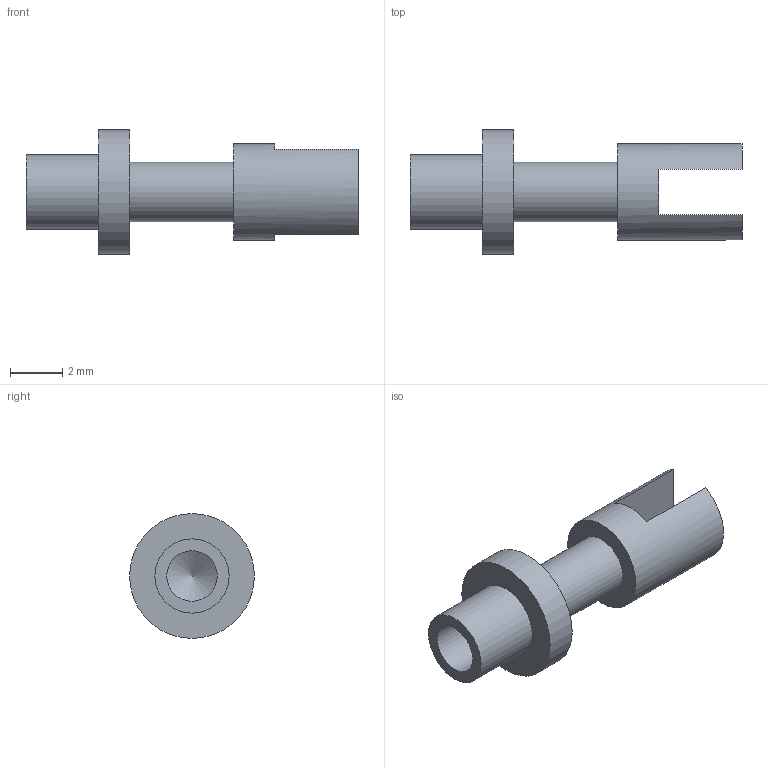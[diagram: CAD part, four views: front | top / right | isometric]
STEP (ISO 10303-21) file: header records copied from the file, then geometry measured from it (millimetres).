
FILE_DESCRIPTION(/* description */ (''),/* implementation_level */ '2;1');
FILE_NAME(/* name */ 'Z:\STEP folder\140-1025-02.ipt.stp',/* time_stamp */ '2016-12-07T10:38:37+00:00',/* author */ ('Paul Karlsons'),/* organization */ (''),/* preprocessor_version */ 'ST-DEVELOPER v15.2',/* originating_system */ 'Autodesk Inventor 2014',/* authorisation */ '');
FILE_SCHEMA (('AUTOMOTIVE_DESIGN { 1 0 10303 214 3 1 1 }'));
Length unit declared in the file: millimetre
Products named in the file (1): 140-1025-02
Bounding box: 12.7 x 4.78 x 4.78 mm (x, y, z)
Volume: 78.7 mm3; surface area: 200 mm2
Topology: 1 solids, 1 shells, 15 faces, 29 edges, 19 vertices
Faces by surface type: plane 9, cylinder 5, cone 1
Full cylindrical faces by diameter (mm): 1.93 x1, 2.286 x1, 2.845 x1, 3.683 x1, 4.775 x1
Entity records: 361 total; most frequent: DIRECTION 66, CARTESIAN_POINT 54, ORIENTED_EDGE 42, AXIS2_PLACEMENT_3D 29, EDGE_LOOP 24, EDGE_CURVE 21, VERTEX_POINT 17, ADVANCED_FACE 15
